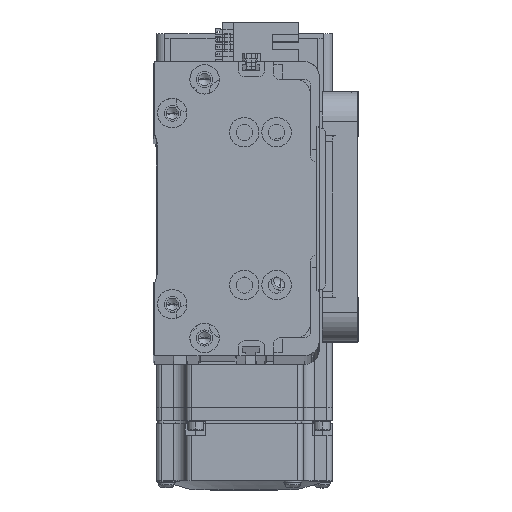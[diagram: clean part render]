
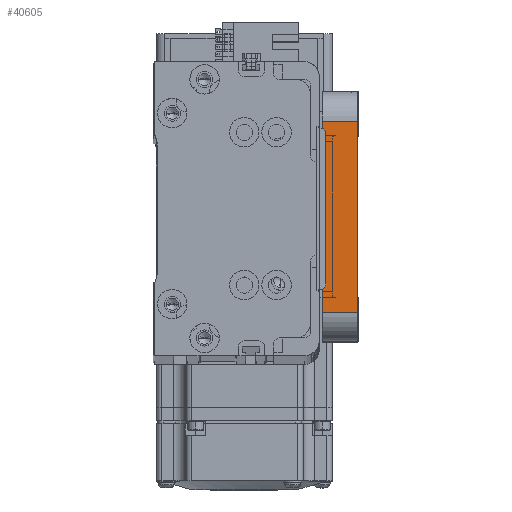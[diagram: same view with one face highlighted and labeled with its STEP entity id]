
A CAD part, top view. The second image highlights one B-rep face of the part: STEP entity #40605.
In plain terms, the highlighted planar face has unit normal (0, 0, 1) as drawn and (-1, 0, 0) by its records, which use the part's own axes.
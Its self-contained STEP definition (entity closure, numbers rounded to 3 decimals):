
#1248 = DIRECTION ( 'NONE',  ( 0., -1., 0. ) ) ;
#1881 = VERTEX_POINT ( 'NONE', #6182 ) ;
#3069 = LINE ( 'NONE', #19542, #46995 ) ;
#6182 = CARTESIAN_POINT ( 'NONE',  ( -55., 32.5, 0. ) ) ;
#6353 = VERTEX_POINT ( 'NONE', #6902 ) ;
#6902 = CARTESIAN_POINT ( 'NONE',  ( -55., -32.5, 12. ) ) ;
#15334 = ORIENTED_EDGE ( 'NONE', *, *, #32734, .T. ) ;
#19542 = CARTESIAN_POINT ( 'NONE',  ( -55., -42.5, 12. ) ) ;
#20230 = LINE ( 'NONE', #39622, #66004 ) ;
#20229 = CARTESIAN_POINT ( 'NONE',  ( -55., -32.5, 0. ) ) ;
#24233 = DIRECTION ( 'NONE',  ( 0., 0., -1. ) ) ;
#25128 = EDGE_LOOP ( 'NONE', ( #15334, #54133, #52986, #69304 ) ) ;
#27528 = DIRECTION ( 'NONE',  ( 0., 0., 1. ) ) ;
#29704 = PLANE ( 'NONE',  #65180 ) ;
#32734 = EDGE_CURVE ( 'NONE', #1881, #36279, #53989, .T. ) ;
#34303 = EDGE_CURVE ( 'NONE', #55514, #1881, #20230, .T. ) ;
#36279 = VERTEX_POINT ( 'NONE', #20229 ) ;
#39622 = CARTESIAN_POINT ( 'NONE',  ( -55., 32.5, 12. ) ) ;
#39983 = VECTOR ( 'NONE', #27528, 1000. ) ;
#40605 = ADVANCED_FACE ( 'NONE', ( #46136 ), #29704, .F. ) ;
#41269 = CARTESIAN_POINT ( 'NONE',  ( -55., -42.5, 0. ) ) ;
#44638 = CARTESIAN_POINT ( 'NONE',  ( -55., -32.5, 12. ) ) ;
#46136 = FACE_OUTER_BOUND ( 'NONE', #25128, .T. ) ;
#46361 = EDGE_CURVE ( 'NONE', #55514, #6353, #3069, .T. ) ;
#46995 = VECTOR ( 'NONE', #54400, 1000. ) ;
#47057 = CARTESIAN_POINT ( 'NONE',  ( -55., -42.5, 12. ) ) ;
#52986 = ORIENTED_EDGE ( 'NONE', *, *, #46361, .F. ) ;
#53989 = LINE ( 'NONE', #41269, #69289 ) ;
#54133 = ORIENTED_EDGE ( 'NONE', *, *, #74370, .T. ) ;
#54400 = DIRECTION ( 'NONE',  ( 0., -1., 0. ) ) ;
#55514 = VERTEX_POINT ( 'NONE', #68006 ) ;
#56940 = DIRECTION ( 'NONE',  ( 0., 0., -1. ) ) ;
#58581 = DIRECTION ( 'NONE',  ( 1., 0., 0. ) ) ;
#65180 = AXIS2_PLACEMENT_3D ( 'NONE', #47057, #58581, #24233 ) ;
#66004 = VECTOR ( 'NONE', #56940, 1000. ) ;
#68006 = CARTESIAN_POINT ( 'NONE',  ( -55., 32.5, 12. ) ) ;
#69289 = VECTOR ( 'NONE', #1248, 1000. ) ;
#69304 = ORIENTED_EDGE ( 'NONE', *, *, #34303, .T. ) ;
#70536 = LINE ( 'NONE', #44638, #39983 ) ;
#74370 = EDGE_CURVE ( 'NONE', #36279, #6353, #70536, .T. ) ;
